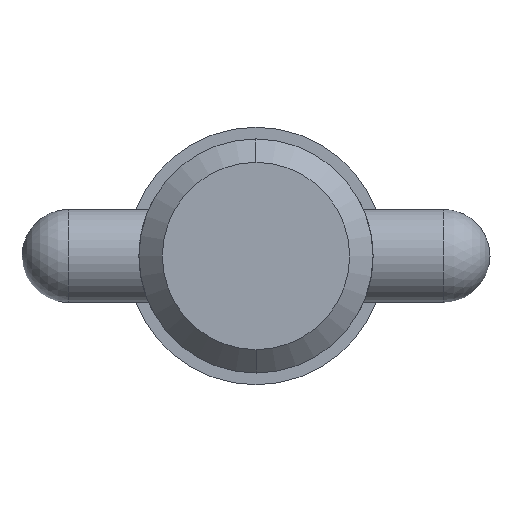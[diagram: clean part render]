
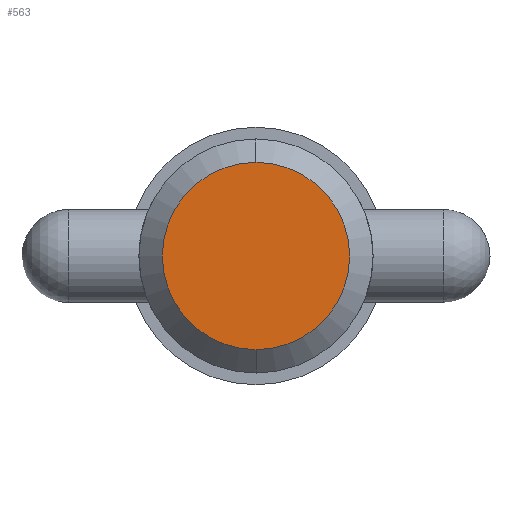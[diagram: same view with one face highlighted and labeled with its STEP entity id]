
A CAD part, left-side view. The second image highlights one B-rep face of the part: STEP entity #563.
In plain terms, the highlighted planar face has unit normal (-1, 0, 0).
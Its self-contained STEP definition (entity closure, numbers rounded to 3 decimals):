
#10 = ORIENTED_EDGE ( 'NONE', *, *, #672, .F. ) ;
#137 = EDGE_CURVE ( 'NONE', #585, #210, #514, .T. ) ;
#203 = DIRECTION ( 'NONE',  ( 1., 0., 0. ) ) ;
#210 = VERTEX_POINT ( 'NONE', #533 ) ;
#279 = CIRCLE ( 'NONE', #649, 6.352 ) ;
#296 = CARTESIAN_POINT ( 'NONE',  ( 0., 0., 0. ) ) ;
#325 = ORIENTED_EDGE ( 'NONE', *, *, #137, .F. ) ;
#375 = CARTESIAN_POINT ( 'NONE',  ( 0., 0., 0. ) ) ;
#467 = CARTESIAN_POINT ( 'NONE',  ( 0., 0., 0. ) ) ;
#514 = CIRCLE ( 'NONE', #870, 6.352 ) ;
#533 = CARTESIAN_POINT ( 'NONE',  ( 0., 0., 6.352 ) ) ;
#563 = ADVANCED_FACE ( 'NONE', ( #728 ), #882, .T. ) ;
#585 = VERTEX_POINT ( 'NONE', #1026 ) ;
#612 = DIRECTION ( 'NONE',  ( 0., 0., -1. ) ) ;
#634 = DIRECTION ( 'NONE',  ( 1., 0., 0. ) ) ;
#649 = AXIS2_PLACEMENT_3D ( 'NONE', #296, #634, #786 ) ;
#672 = EDGE_CURVE ( 'NONE', #210, #585, #279, .T. ) ;
#728 = FACE_OUTER_BOUND ( 'NONE', #824, .T. ) ;
#757 = AXIS2_PLACEMENT_3D ( 'NONE', #467, #799, #804 ) ;
#786 = DIRECTION ( 'NONE',  ( 0., 0., -1. ) ) ;
#799 = DIRECTION ( 'NONE',  ( -1., 0., 0. ) ) ;
#804 = DIRECTION ( 'NONE',  ( 0., 0., 1. ) ) ;
#824 = EDGE_LOOP ( 'NONE', ( #325, #10 ) ) ;
#870 = AXIS2_PLACEMENT_3D ( 'NONE', #375, #203, #612 ) ;
#882 = PLANE ( 'NONE',  #757 ) ;
#1026 = CARTESIAN_POINT ( 'NONE',  ( 0., 0., -6.352 ) ) ;
